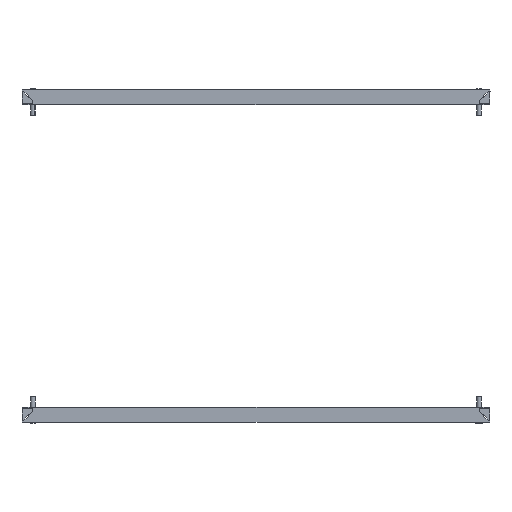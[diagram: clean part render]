
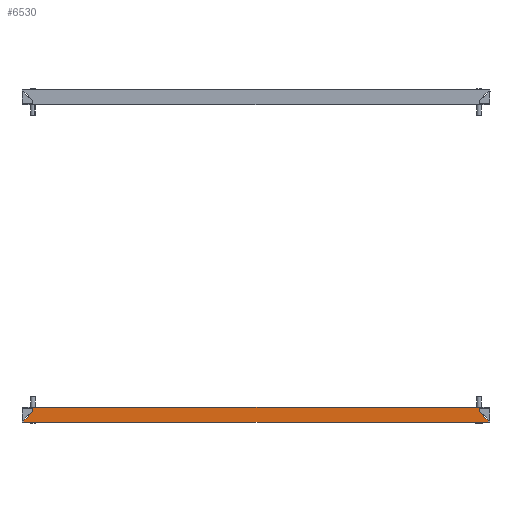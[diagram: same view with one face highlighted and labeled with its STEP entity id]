
A CAD part, front view. The second image highlights one B-rep face of the part: STEP entity #6530.
In plain terms, the highlighted planar face has unit normal (0, -1, 0).
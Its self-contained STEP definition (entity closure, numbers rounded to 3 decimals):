
#27 = CARTESIAN_POINT ( 'NONE',  ( -123.212, -50., 420.858 ) ) ;
#339 = CARTESIAN_POINT ( 'NONE',  ( -297.181, -50., -0.799 ) ) ;
#551 = DIRECTION ( 'NONE',  ( 0., 1., 0. ) ) ;
#809 = VERTEX_POINT ( 'NONE', #1139 ) ;
#914 = CARTESIAN_POINT ( 'NONE',  ( 0., -50., -1.5 ) ) ;
#961 = ORIENTED_EDGE ( 'NONE', *, *, #5394, .F. ) ;
#1064 = LINE ( 'NONE', #2621, #9847 ) ;
#1127 = ORIENTED_EDGE ( 'NONE', *, *, #4445, .F. ) ;
#1139 = CARTESIAN_POINT ( 'NONE',  ( 286., -50., 11.646 ) ) ;
#1162 = FACE_OUTER_BOUND ( 'NONE', #8110, .T. ) ;
#1233 = DIRECTION ( 'NONE',  ( 0., 0., -1. ) ) ;
#1248 = ORIENTED_EDGE ( 'NONE', *, *, #3363, .T. ) ;
#1483 = CARTESIAN_POINT ( 'NONE',  ( 297.181, -50., -0.799 ) ) ;
#1793 = B_SPLINE_CURVE_WITH_KNOTS ( 'NONE', 3,
 ( #7582, #2889, #8296, #1483, #5230, #6125 ),
 .UNSPECIFIED., .F., .F.,
 ( 4, 2, 4 ),
 ( 0.005, 0.006, 0.008 ),
 .UNSPECIFIED. ) ;
#1815 = CARTESIAN_POINT ( 'NONE',  ( -297.223, -50., -1.5 ) ) ;
#1828 = CARTESIAN_POINT ( 'NONE',  ( 0., -50., 0. ) ) ;
#1941 = B_SPLINE_CURVE_WITH_KNOTS ( 'NONE', 3,
 ( #6346, #4941, #7956, #339, #8001, #1815 ),
 .UNSPECIFIED., .F., .F.,
 ( 4, 2, 4 ),
 ( 0.005, 0.006, 0.008 ),
 .UNSPECIFIED. ) ;
#2074 = VERTEX_POINT ( 'NONE', #4134 ) ;
#2160 = CARTESIAN_POINT ( 'NONE',  ( -297.046, -50., 0.6 ) ) ;
#2436 = ORIENTED_EDGE ( 'NONE', *, *, #3624, .T. ) ;
#2492 = ORIENTED_EDGE ( 'NONE', *, *, #8122, .T. ) ;
#2621 = CARTESIAN_POINT ( 'NONE',  ( 0., -50., 17.5 ) ) ;
#2685 = CARTESIAN_POINT ( 'NONE',  ( -297.223, -50., -1.5 ) ) ;
#2889 = CARTESIAN_POINT ( 'NONE',  ( 297.084, -50., 0.251 ) ) ;
#2898 = LINE ( 'NONE', #5195, #8712 ) ;
#2965 = VERTEX_POINT ( 'NONE', #7920 ) ;
#3048 = VECTOR ( 'NONE', #5260, 1000. ) ;
#3285 = DIRECTION ( 'NONE',  ( 0.707, 0., -0.707 ) ) ;
#3363 = EDGE_CURVE ( 'NONE', #2074, #6192, #5023, .T. ) ;
#3437 = DIRECTION ( 'NONE',  ( -1., 0., 0. ) ) ;
#3624 = EDGE_CURVE ( 'NONE', #809, #4511, #7468, .T. ) ;
#4134 = CARTESIAN_POINT ( 'NONE',  ( -286., -50., 17.5 ) ) ;
#4199 = VECTOR ( 'NONE', #1233, 1000. ) ;
#4333 = VERTEX_POINT ( 'NONE', #2160 ) ;
#4393 = VERTEX_POINT ( 'NONE', #8499 ) ;
#4445 = EDGE_CURVE ( 'NONE', #809, #2965, #5334, .T. ) ;
#4511 = VERTEX_POINT ( 'NONE', #7429 ) ;
#4899 = PLANE ( 'NONE',  #9052 ) ;
#4941 = CARTESIAN_POINT ( 'NONE',  ( -297.084, -50., 0.251 ) ) ;
#4967 = CARTESIAN_POINT ( 'NONE',  ( -286., -50., 11.646 ) ) ;
#5023 = LINE ( 'NONE', #4967, #4199 ) ;
#5195 = CARTESIAN_POINT ( 'NONE',  ( -297.046, -50., 0.6 ) ) ;
#5230 = CARTESIAN_POINT ( 'NONE',  ( 297.204, -50., -1.149 ) ) ;
#5260 = DIRECTION ( 'NONE',  ( 0., 0., 1. ) ) ;
#5334 = LINE ( 'NONE', #27, #7081 ) ;
#5394 = EDGE_CURVE ( 'NONE', #4333, #6192, #2898, .T. ) ;
#5779 = EDGE_CURVE ( 'NONE', #2965, #4393, #1793, .T. ) ;
#6125 = CARTESIAN_POINT ( 'NONE',  ( 297.223, -50., -1.5 ) ) ;
#6158 = CARTESIAN_POINT ( 'NONE',  ( 286., -50., 11.646 ) ) ;
#6192 = VERTEX_POINT ( 'NONE', #7926 ) ;
#6316 = LINE ( 'NONE', #914, #8909 ) ;
#6346 = CARTESIAN_POINT ( 'NONE',  ( -297.046, -50., 0.6 ) ) ;
#6479 = ORIENTED_EDGE ( 'NONE', *, *, #5779, .F. ) ;
#6530 = ADVANCED_FACE ( 'NONE', ( #1162 ), #4899, .F. ) ;
#6763 = ORIENTED_EDGE ( 'NONE', *, *, #9776, .T. ) ;
#7081 = VECTOR ( 'NONE', #3285, 1000. ) ;
#7429 = CARTESIAN_POINT ( 'NONE',  ( 286., -50., 17.5 ) ) ;
#7468 = LINE ( 'NONE', #6158, #3048 ) ;
#7582 = CARTESIAN_POINT ( 'NONE',  ( 297.046, -50., 0.6 ) ) ;
#7920 = CARTESIAN_POINT ( 'NONE',  ( 297.046, -50., 0.6 ) ) ;
#7926 = CARTESIAN_POINT ( 'NONE',  ( -286., -50., 11.646 ) ) ;
#7956 = CARTESIAN_POINT ( 'NONE',  ( -297.121, -50., -0.099 ) ) ;
#8001 = CARTESIAN_POINT ( 'NONE',  ( -297.204, -50., -1.149 ) ) ;
#8110 = EDGE_LOOP ( 'NONE', ( #1127, #2436, #8366, #1248, #961, #2492, #6763, #6479 ) ) ;
#8122 = EDGE_CURVE ( 'NONE', #4333, #8718, #1941, .T. ) ;
#8296 = CARTESIAN_POINT ( 'NONE',  ( 297.121, -50., -0.099 ) ) ;
#8366 = ORIENTED_EDGE ( 'NONE', *, *, #8834, .T. ) ;
#8499 = CARTESIAN_POINT ( 'NONE',  ( 297.223, -50., -1.5 ) ) ;
#8712 = VECTOR ( 'NONE', #9756, 1000. ) ;
#8718 = VERTEX_POINT ( 'NONE', #2685 ) ;
#8834 = EDGE_CURVE ( 'NONE', #4511, #2074, #1064, .T. ) ;
#8909 = VECTOR ( 'NONE', #9230, 1000. ) ;
#9052 = AXIS2_PLACEMENT_3D ( 'NONE', #1828, #551, #9414 ) ;
#9230 = DIRECTION ( 'NONE',  ( 1., 0., 0. ) ) ;
#9414 = DIRECTION ( 'NONE',  ( 0., 0., 1. ) ) ;
#9756 = DIRECTION ( 'NONE',  ( 0.707, 0., 0.707 ) ) ;
#9776 = EDGE_CURVE ( 'NONE', #8718, #4393, #6316, .T. ) ;
#9847 = VECTOR ( 'NONE', #3437, 1000. ) ;
